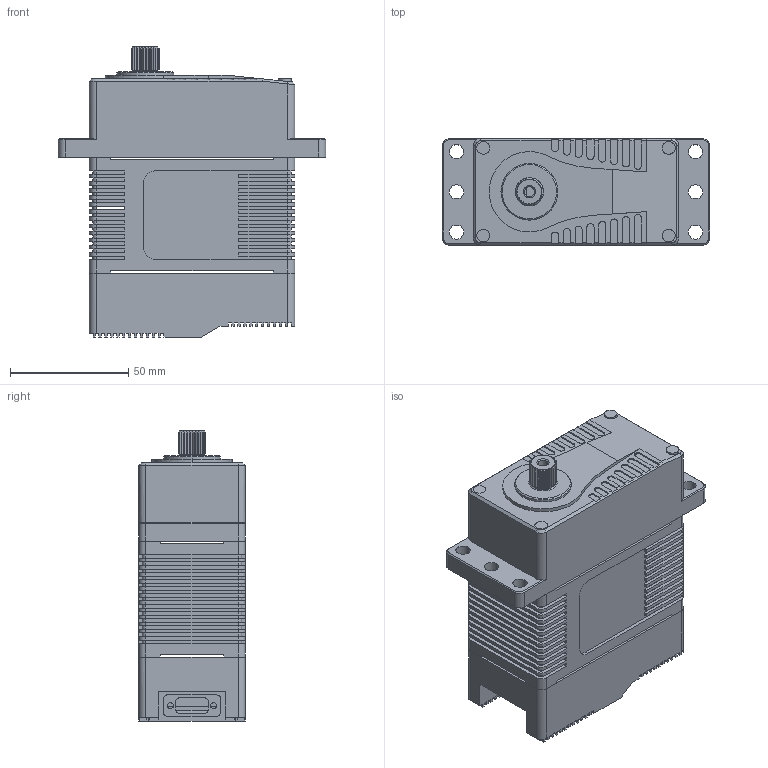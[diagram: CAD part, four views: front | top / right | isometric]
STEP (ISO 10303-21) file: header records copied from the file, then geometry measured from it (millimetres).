
FILE_DESCRIPTION (( 'STEP AP214' ), '1' );
FILE_NAME ('X50-28-350-V8.0_DM.STEP', '2021-12-16T01:16:34', ( '微软用户' ), ( '微软中国' ), 'SwSTEP 2.0', 'SolidWorks 2016', '' );
FILE_SCHEMA (( 'AUTOMOTIVE_DESIGN' ));
Length unit declared in the file: millimetre
Products named in the file (1): X50-28-350-V8.0_DM
Bounding box: 113 x 45 x 122.6 mm (x, y, z)
Surface area: 54883.6 mm2 (no closed solid volume)
Topology: 0 solids, 16 shells, 884 faces, 2781 edges, 1895 vertices
Faces by surface type: plane 557, cylinder 270, cone 55, bspline 2
Entity records: 40922 total; most frequent: CARTESIAN_POINT 6461, ORIENTED_EDGE 5173, DIRECTION 4998, EDGE_CURVE 2781, VECTOR 1952, LINE 1952, VERTEX_POINT 1895, AXIS2_PLACEMENT_3D 1523
